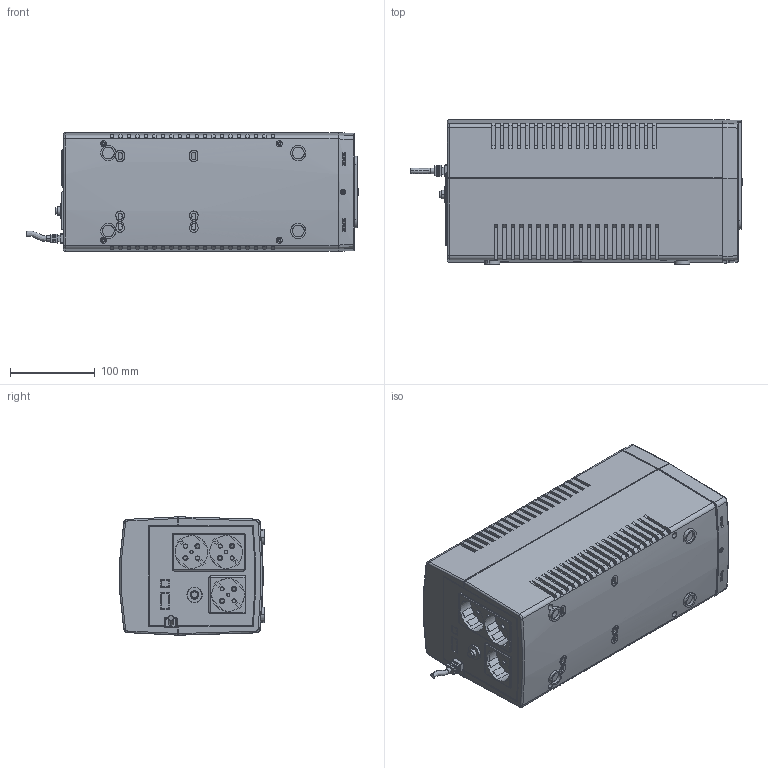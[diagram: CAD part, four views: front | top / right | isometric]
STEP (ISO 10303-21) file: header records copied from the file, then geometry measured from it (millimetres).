
FILE_DESCRIPTION (( 'STEP AP214' ), '1' );
FILE_NAME ('INFO1200S.STEP', '2023-04-01T14:31:45', ( 'user' ), ( '' ), 'SwSTEP 2.0', 'SolidWorks 2022', '' );
FILE_SCHEMA (( 'AUTOMOTIVE_DESIGN' ));
Length unit declared in the file: millimetre
Products named in the file (16): INFOLCD1200 задняя стенка; INFOLCD1200I-INFO1200S-INFOLCD1500I-INFOLCD1500S.stp; DKC.STEP.STEP; Провод; 2SCHUKO_11 — копия; LIGHT_1.stp.STEP.STEP; Экран; EA206I-LED_ASM_1_ASM.stp.STEP.STEP; EA306-BUTTON-02_1.stp.STEP.STEP; INFO1200S; INFOLCD1200I-INFO1200S-INFOLCD1500I-INFOLCD1500S-cover.stp; INFO600S-INFO800S.STEP; 206Y-BUTTON-01_1.stp.STEP.STEP; EA206I_ASM_1_ASM.stp.STEP.STEP; FUSE-SMALL; 2SCHUKO_11
Assembly tree (15 placements, depth 5):
  INFO1200S
    INFOLCD1200 задняя стенка
    2SCHUKO_11 — копия
    2SCHUKO_11
    FUSE-SMALL
    Провод
    INFOLCD1200I-INFO1200S-INFOLCD1500I-INFOLCD1500S-cover.stp
    INFOLCD1200I-INFO1200S-INFOLCD1500I-INFOLCD1500S.stp
    INFO600S-INFO800S.STEP
      EA206I_ASM_1_ASM.stp.STEP.STEP
        EA206I-LED_ASM_1_ASM.stp.STEP.STEP
          206Y-BUTTON-01_1.stp.STEP.STEP
          EA306-BUTTON-02_1.stp.STEP.STEP
          LIGHT_1.stp.STEP.STEP
      DKC.STEP.STEP
    Экран
Bounding box: 392.36 x 170.49 x 140 mm (x, y, z)
Volume: 796110.4 mm3; surface area: 704444.2 mm2
Topology: 32 solids, 32 shells, 4458 faces, 12995 edges, 8406 vertices
Faces by surface type: plane 2951, cylinder 1186, bspline 140, cone 81, sphere 52, torus 48
Entity records: 162466 total; most frequent: CARTESIAN_POINT 40825, ORIENTED_EDGE 25966, DIRECTION 23744, EDGE_CURVE 12983, LINE 8880, VECTOR 8880, VERTEX_POINT 8400, AXIS2_PLACEMENT_3D 7432
